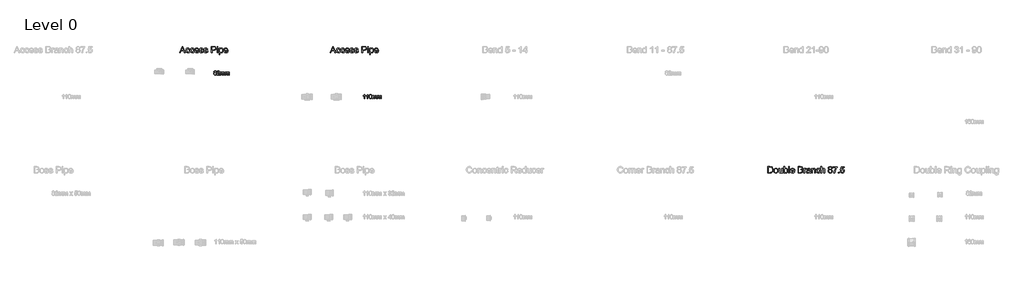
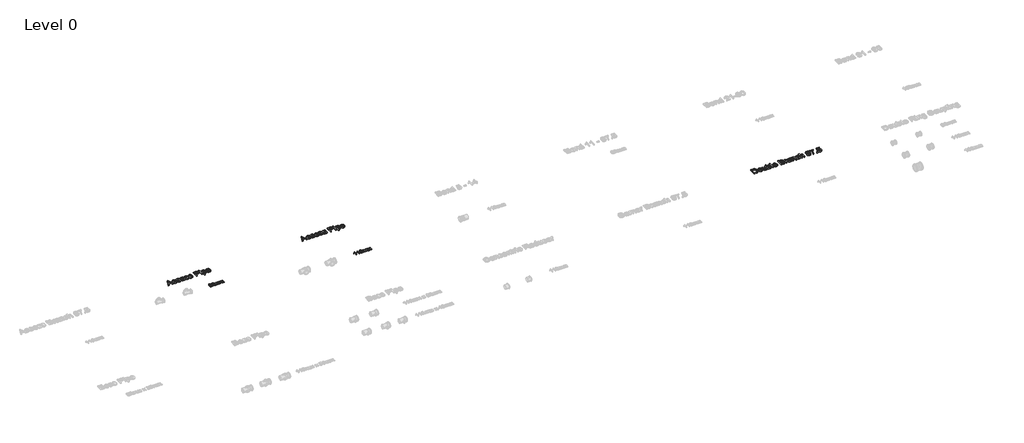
# One storey, part 19 of 23: 5 proxies.
"""IFC4 building model written with IfcOpenShell, lengths in millimetres."""

import ifcopenshell
import ifcopenshell.guid

model = None  # the IFC model being written
_history = None  # IfcOwnerHistory: only IFC2X3 demands one
_inside = {}  # id of a spatial element -> (the spatial element, [elements in it])
_under = {}  # id of a project, library or spatial element -> (it, [spatial elements below it])
_declared = {}  # id of a project -> (the project, [libraries it declares])
_typed = {}  # id of a type object -> (the type object, [elements of that type])
_made_of = {}  # id of a material, layer set ... -> (it, [elements and type objects made of it])


def new_model(schema):
    """Start an empty IFC model of exactly this schema.

    Asked for "IFC4X3", IfcOpenShell would pick the latest addendum, in which some entities
    have other attributes; the version numbers below select the first issue.
    IFC2X3 requires an IfcOwnerHistory on every rooted entity: one is made here for all.
    """
    global model, _history
    if schema == "IFC4X3":
        model = ifcopenshell.file(schema_version=(4, 3, 0, 0))
    else:
        model = ifcopenshell.file(schema=schema)
    _inside.clear()
    _under.clear()
    _declared.clear()
    _typed.clear()
    _made_of.clear()
    _history = None
    if model.schema == "IFC2X3":
        org = make("IfcOrganization", Name="unknown")
        user = make(
            "IfcPersonAndOrganization",
            ThePerson=make("IfcPerson", FamilyName="unknown"),
            TheOrganization=org,
        )
        app = make(
            "IfcApplication",
            ApplicationDeveloper=org,
            Version="unknown",
            ApplicationFullName="unknown",
            ApplicationIdentifier="unknown",
        )
        _history = make(
            "IfcOwnerHistory",
            OwningUser=user,
            OwningApplication=app,
            ChangeAction="ADDED",
            CreationDate=0,
        )
    return model


def make(cls, **values):
    """One entity of the class cls with the attributes given. An attribute that is None is left unset."""
    return model.create_entity(
        cls, **{name: value for name, value in values.items() if value is not None}
    )


def rooted(cls, **values):
    """An entity with a GlobalId (a new one), such as an element, a storey or a relation."""
    return make(cls, GlobalId=ifcopenshell.guid.new(), OwnerHistory=_history, **values)


def si_unit(unit_type, name, prefix=None):
    """IfcSIUnit, for example si_unit("LENGTHUNIT", "METRE", prefix="MILLI")."""
    return make("IfcSIUnit", UnitType=unit_type, Prefix=prefix, Name=name)


def assignment(units):
    """IfcUnitAssignment: the units of a project."""
    return None if units is None else make("IfcUnitAssignment", Units=units)


def point(xyz):
    """IfcCartesianPoint."""
    return None if xyz is None else make("IfcCartesianPoint", Coordinates=xyz)


def direction(xyz):
    """IfcDirection."""
    return None if xyz is None else make("IfcDirection", DirectionRatios=xyz)


def frame(location, z_axis=None, x_axis=None):
    """IfcAxis2Placement3D, a coordinate frame: its origin and axes. An axis left out is left unset."""
    return make(
        "IfcAxis2Placement3D",
        Location=point(location),
        Axis=direction(z_axis),
        RefDirection=direction(x_axis),
    )


def origin():
    """The frame at (0, 0, 0) with its axes left unset."""
    return frame((0.0, 0.0, 0.0))


def origin_with_axes():
    """The frame at (0, 0, 0) with the z axis (0, 0, 1) and the x axis (1, 0, 0) written out."""
    return frame((0.0, 0.0, 0.0), z_axis=(0.0, 0.0, 1.0), x_axis=(1.0, 0.0, 0.0))


def place(relative_to, where):
    """IfcLocalPlacement: puts the frame where relative to a parent placement (None: the world)."""
    return make(
        "IfcLocalPlacement", PlacementRelTo=relative_to, RelativePlacement=where
    )


def context(
    kind, dimensions, precision=None, world=None, true_north=None, identifier=None
):
    """IfcGeometricRepresentationContext, for example the 3D "Model" context."""
    return make(
        "IfcGeometricRepresentationContext",
        ContextIdentifier=identifier,
        ContextType=kind,
        CoordinateSpaceDimension=dimensions,
        Precision=precision,
        WorldCoordinateSystem=world,
        TrueNorth=true_north,
    )


def project(units=None, contexts=None):
    """IfcProject with its units and contexts."""
    return rooted(
        "IfcProject",
        Name="project",
        RepresentationContexts=contexts,
        UnitsInContext=assignment(units),
    )


def spatial(cls, under=None, at=None, **own):
    """A site, building, storey or space (cls), placed at a placement, below another one or the project."""
    s = rooted(cls, ObjectPlacement=at, **own)
    if under is not None:
        _under.setdefault(under.id(), (under, []))[1].append(s)
    return s


def polyline(points):
    """IfcPolyline through the points."""
    return make("IfcPolyline", Points=[point(p) for p in points])


def outline(outer, holes=None, kind="AREA"):
    """IfcArbitraryClosedProfileDef: a profile drawn as a closed curve; with holes, ...WithVoids."""
    if holes is None:
        return make("IfcArbitraryClosedProfileDef", ProfileType=kind, OuterCurve=outer)
    return make(
        "IfcArbitraryProfileDefWithVoids",
        ProfileType=kind,
        OuterCurve=outer,
        InnerCurves=holes,
    )


def extrude(swept, where, along, depth):
    """IfcExtrudedAreaSolid: the profile swept, set in the frame where, extruded along a direction by depth."""
    return make(
        "IfcExtrudedAreaSolid",
        SweptArea=swept,
        Position=where,
        ExtrudedDirection=direction(along),
        Depth=depth,
    )


def shape(context_of_items, identifier, shape_type, items):
    """IfcShapeRepresentation: the items that make up one representation, for example the "Body"."""
    return make(
        "IfcShapeRepresentation",
        ContextOfItems=context_of_items,
        RepresentationIdentifier=identifier,
        RepresentationType=shape_type,
        Items=items,
    )


def made_of(thing, what):
    """Note that an element or type object is made of a material, layer set ...; save() writes the relation."""
    if what is not None:
        _made_of.setdefault(what.id(), (what, []))[1].append(thing)
    return thing


def element(
    cls,
    number,
    at=None,
    inside=None,
    cuts=None,
    type_object=None,
    material=None,
    context=None,
    identifier="Body",
    shape_type=None,
    held_by="IfcProductDefinitionShape",
    body=None,
    shapes=None,
    **own,
):
    """One element of the class cls, such as IfcWall. Its Tag is "e" and its number.

    at: its placement. inside: the storey or other place that contains it. cuts: it is an
    opening in that element (IfcRelVoidsElement). A single representation is given by context,
    identifier, shape_type and body (its items); several are given by shapes. held_by: the class
    of the entity that holds the representations. save() writes the other relations.
    """
    e = rooted(cls, Tag="e%d" % number, ObjectPlacement=at, **own)
    if body is not None:
        shapes = [shape(context, identifier, shape_type, body)]
    if shapes is not None:
        e.Representation = make(held_by, Representations=shapes)
    if inside is not None:
        _inside.setdefault(inside.id(), (inside, []))[1].append(e)
    if cuts is not None:
        rooted(
            "IfcRelVoidsElement", RelatingBuildingElement=cuts, RelatedOpeningElement=e
        )
    if type_object is not None:
        _typed.setdefault(type_object.id(), (type_object, []))[1].append(e)
    return made_of(e, material)


def aggregate(whole, parts):
    """IfcRelAggregates: a whole, such as a stair, and the parts it consists of."""
    return rooted("IfcRelAggregates", RelatingObject=whole, RelatedObjects=parts)


def save(model, path):
    """Write the relations noted so far, then the file.

    IfcRelAggregates (storeys below a building ...), IfcRelContainedInSpatialStructure (elements
    in a storey), IfcRelDefinesByType, IfcRelAssociatesMaterial and IfcRelDeclares: one each for
    every whole, place, type object, material and project.
    """
    for whole, parts in _under.values():
        aggregate(whole, parts)
    for where, things in _inside.values():
        rooted(
            "IfcRelContainedInSpatialStructure",
            RelatedElements=things,
            RelatingStructure=where,
        )
    for kind, things in _typed.values():
        rooted("IfcRelDefinesByType", RelatedObjects=things, RelatingType=kind)
    for what, things in _made_of.values():
        rooted("IfcRelAssociatesMaterial", RelatedObjects=things, RelatingMaterial=what)
    for by, libraries in _declared.values():
        rooted("IfcRelDeclares", RelatingContext=by, RelatedDefinitions=libraries)
    model.write(path)


model = new_model("IFC4")

# Units and contexts
model_context = context("Model", 3, world=origin())
ifc_project = project(units=[si_unit("LENGTHUNIT", "METRE", prefix="MILLI")], contexts=[model_context])

# Site, building, storey
site = spatial("IfcSite", under=ifc_project)
building = spatial("IfcBuilding", under=site)
storey = spatial("IfcBuildingStorey", under=building, Name="Level 0", Elevation=0.0)

# Proxies
placement = place(None, origin())
element("IfcBuildingElementProxy", 1, Name="100mm Arial", ObjectType="100mm Arial", at=placement, inside=storey, context=model_context, shape_type="SweptSolid", body=[
    extrude(outline(polyline([(-13782.2581649, 8840.881174), (-13793.4721072, 8848.5254048), (-13797.1139341, 8860.4244433), (-13795.1307611, 8870.0458375), (-13789.1812418, 8877.9965587), (-13779.9324438, 8883.3330971), (-13768.0514341, 8885.1119433), (-13756.0983091, 8883.2910298), (-13746.7293188, 8877.8282894), (-13740.6716264, 8869.7513663), (-13738.6523957, 8860.0879048), (-13742.2461457, 8848.4893471), (-13753.147588, 8840.881174), (-13740.0586457, 8831.2297317), (-13735.5754726, 8815.304251), (-13737.7990303, 8803.537424), (-13744.4697034, 8793.8138663), (-13754.7701841, 8787.287424), (-13767.8831649, 8785.1119433), (-13780.9961457, 8787.2964385), (-13791.2966264, 8793.849924), (-13797.9672995, 8803.6666308), (-13800.1908572, 8815.6407894), (-13795.5273957, 8831.9388663), (-13782.2581649, 8840.881174)]), holes=[polyline([(-13784.8062418, 8860.0638663), (-13780.4432611, 8850.4004048), (-13767.7389341, 8846.6504048), (-13755.2870111, 8850.3763663), (-13750.960088, 8859.5109817), (-13755.4312418, 8868.9701163), (-13767.8831649, 8872.804251), (-13780.3711457, 8869.054251), (-13784.8062418, 8860.0638663)]), polyline([(-13787.8831649, 8816.0734817), (-13785.8278764, 8806.8066548), (-13778.5562418, 8799.8715587), (-13767.7870111, 8797.4196356), (-13753.1235495, 8802.5758856), (-13747.8831649, 8815.6888663), (-13753.2918188, 8829.054251), (-13759.7221072, 8833.0205971), (-13768.1956649, 8834.3427125), (-13782.678838, 8829.1263663), (-13787.8831649, 8816.0734817)])]), origin_with_axes(), (0.0, 0.0, 1.0), 15.0),
    extrude(outline(polyline([(-13661.7293188, 8798.9580971), (-13661.7293188, 8786.6504048), (-13726.3447034, 8786.6504048), (-13725.022588, 8795.1359817), (-13717.5466264, 8808.2008856), (-13702.1379726, 8822.4677125), (-13680.8879726, 8842.9725202), (-13675.5754726, 8856.9148279), (-13680.5874918, 8868.2008856), (-13693.6764341, 8872.804251), (-13707.3182611, 8868.3090587), (-13712.4985495, 8855.881174), (-13724.8062418, 8857.4196356), (-13721.8224678, 8869.3246837), (-13715.3711457, 8878.0205971), (-13705.7888139, 8883.3391067), (-13693.4120111, 8885.1119433), (-13680.9450639, 8883.1407894), (-13671.3807611, 8877.2273279), (-13665.2960255, 8868.3931933), (-13663.2677803, 8857.6600202), (-13665.4552803, 8845.9893471), (-13672.7269149, 8833.9220394), (-13690.3591264, 8817.0590587), (-13704.5177803, 8805.2201163), (-13710.0706649, 8798.9580971), (-13661.7293188, 8798.9580971)])), origin_with_axes(), (0.0, 0.0, 1.0), 15.0),
    extrude(outline(polyline([(-13646.3447034, 8786.6504048), (-13646.3447034, 8858.9580971), (-13634.0370111, 8858.9580971), (-13634.0370111, 8847.0590587), (-13625.5754726, 8856.8066548), (-13613.5322034, 8860.4965587), (-13601.2004726, 8856.7345394), (-13594.4216264, 8846.193674), (-13584.8182611, 8856.9208375), (-13572.6908572, 8860.4965587), (-13563.4390543, 8859.0091788), (-13556.5971072, 8854.5470394), (-13552.3693428, 8846.9899481), (-13550.960088, 8836.2177125), (-13550.960088, 8786.6504048), (-13563.2677803, 8786.6504048), (-13563.2677803, 8830.929251), (-13564.4096072, 8841.2056933), (-13568.5442226, 8846.2657894), (-13575.5754726, 8848.1888663), (-13587.678838, 8843.2609817), (-13592.4985495, 8827.4677125), (-13592.4985495, 8786.6504048), (-13604.8062418, 8786.6504048), (-13604.8062418, 8832.2994433), (-13607.6547995, 8844.2225202), (-13616.9937418, 8848.1888663), (-13626.1043188, 8845.5446356), (-13632.1620111, 8837.804251), (-13634.0370111, 8823.116751), (-13634.0370111, 8786.6504048), (-13646.3447034, 8786.6504048)])), origin_with_axes(), (0.0, 0.0, 1.0), 15.0),
    extrude(outline(polyline([(-13532.4985495, 8786.6504048), (-13532.4985495, 8858.9580971), (-13520.1908572, 8858.9580971), (-13520.1908572, 8847.0590587), (-13511.7293188, 8856.8066548), (-13499.6860495, 8860.4965587), (-13487.3543188, 8856.7345394), (-13480.5754726, 8846.193674), (-13470.9721072, 8856.9208375), (-13458.8447034, 8860.4965587), (-13449.5929005, 8859.0091788), (-13442.7509534, 8854.5470394), (-13438.5231889, 8846.9899481), (-13437.1139341, 8836.2177125), (-13437.1139341, 8786.6504048), (-13449.4216264, 8786.6504048), (-13449.4216264, 8830.929251), (-13450.5634534, 8841.2056933), (-13454.6980688, 8846.2657894), (-13461.7293188, 8848.1888663), (-13473.8326841, 8843.2609817), (-13478.6523957, 8827.4677125), (-13478.6523957, 8786.6504048), (-13490.960088, 8786.6504048), (-13490.960088, 8832.2994433), (-13493.8086457, 8844.2225202), (-13503.147588, 8848.1888663), (-13512.2581649, 8845.5446356), (-13518.3158572, 8837.804251), (-13520.1908572, 8823.116751), (-13520.1908572, 8786.6504048), (-13532.4985495, 8786.6504048)])), origin_with_axes(), (0.0, 0.0, 1.0), 15.0),
])
element("IfcBuildingElementProxy", 2, Name="100mm Arial", ObjectType="100mm Arial", at=placement, inside=storey, context=model_context, shape_type="SweptSolid", body=[
    extrude(outline(polyline([(-10291.7293188, 8237.7167304), (-10304.0370111, 8237.7167304), (-10304.0370111, 8314.4474996), (-10315.6956649, 8306.1422111), (-10328.6523957, 8299.9282688), (-10328.6523957, 8311.5628842), (-10310.6115303, 8323.0773073), (-10299.6620111, 8336.1782688), (-10291.7293188, 8336.1782688), (-10291.7293188, 8237.7167304)])), origin_with_axes(), (0.0, 0.0, 1.0), 15.0),
    extrude(outline(polyline([(-10216.3447034, 8237.7167304), (-10228.6523957, 8237.7167304), (-10228.6523957, 8314.4474996), (-10240.3110495, 8306.1422111), (-10253.2677803, 8299.9282688), (-10253.2677803, 8311.5628842), (-10235.2269149, 8323.0773073), (-10224.2773957, 8336.1782688), (-10216.3447034, 8336.1782688), (-10216.3447034, 8237.7167304)])), origin_with_axes(), (0.0, 0.0, 1.0), 15.0),
    extrude(outline(polyline([(-10187.1139341, 8286.1542304), (-10183.4961457, 8314.4835573), (-10172.7509534, 8330.8176919), (-10154.8062418, 8336.1782688), (-10140.4312418, 8333.0051919), (-10130.5033572, 8323.8585573), (-10124.7341264, 8309.2912496), (-10122.4985495, 8286.1542304), (-10126.0802803, 8257.9450958), (-10136.7894149, 8241.5749035), (-10154.8062418, 8236.1782688), (-10167.5947034, 8238.5220188), (-10177.3062418, 8245.5532688), (-10184.6620111, 8262.2059131), (-10187.1139341, 8286.1542304)]), holes=[polyline([(-10174.8062418, 8286.1782688), (-10173.3639341, 8266.8182929), (-10169.0370111, 8255.613365), (-10162.5947034, 8250.2678121), (-10154.8062418, 8248.4859611), (-10147.0177803, 8250.2738217), (-10140.5754726, 8255.6374035), (-10136.2485495, 8266.848341), (-10134.8062418, 8286.1782688), (-10136.2004726, 8305.1025477), (-10140.3831649, 8316.394615), (-10146.8134534, 8322.0015861), (-10154.9504726, 8323.8705765), (-10162.6547995, 8322.2239419), (-10168.8447034, 8317.2840381), (-10173.3158572, 8305.2888458), (-10174.8062418, 8286.1782688)])]), origin_with_axes(), (0.0, 0.0, 1.0), 15.0),
    extrude(outline(polyline([(-10108.6523957, 8237.7167304), (-10108.6523957, 8310.0244227), (-10096.3447034, 8310.0244227), (-10096.3447034, 8298.1253842), (-10087.8831649, 8307.8729804), (-10075.8398957, 8311.5628842), (-10063.5081649, 8307.800865), (-10056.7293188, 8297.2599996), (-10047.1259534, 8307.9871631), (-10034.9985495, 8311.5628842), (-10025.7467466, 8310.0755044), (-10018.9047995, 8305.613365), (-10014.6770351, 8298.0562736), (-10013.2677803, 8287.2840381), (-10013.2677803, 8237.7167304), (-10025.5754726, 8237.7167304), (-10025.5754726, 8281.9955765), (-10026.7172995, 8292.2720188), (-10030.8519149, 8297.332115), (-10037.8831649, 8299.2551919), (-10049.9865303, 8294.3273073), (-10054.8062418, 8278.5340381), (-10054.8062418, 8237.7167304), (-10067.1139341, 8237.7167304), (-10067.1139341, 8283.3657688), (-10069.9624918, 8295.2888458), (-10079.3014341, 8299.2551919), (-10088.4120111, 8296.6109611), (-10094.4697034, 8288.8705765), (-10096.3447034, 8274.1830765), (-10096.3447034, 8237.7167304), (-10108.6523957, 8237.7167304)])), origin_with_axes(), (0.0, 0.0, 1.0), 15.0),
    extrude(outline(polyline([(-9994.8062418, 8237.7167304), (-9994.8062418, 8310.0244227), (-9982.4985495, 8310.0244227), (-9982.4985495, 8298.1253842), (-9974.0370111, 8307.8729804), (-9961.9937418, 8311.5628842), (-9949.6620111, 8307.800865), (-9942.8831649, 8297.2599996), (-9933.2797995, 8307.9871631), (-9921.1523957, 8311.5628842), (-9911.9005928, 8310.0755044), (-9905.0586457, 8305.613365), (-9900.8308813, 8298.0562736), (-9899.4216264, 8287.2840381), (-9899.4216264, 8237.7167304), (-9911.7293188, 8237.7167304), (-9911.7293188, 8281.9955765), (-9912.8711457, 8292.2720188), (-9917.0057611, 8297.332115), (-9924.0370111, 8299.2551919), (-9936.1403764, 8294.3273073), (-9940.960088, 8278.5340381), (-9940.960088, 8237.7167304), (-9953.2677803, 8237.7167304), (-9953.2677803, 8283.3657688), (-9956.116338, 8295.2888458), (-9965.4552803, 8299.2551919), (-9974.5658572, 8296.6109611), (-9980.6235495, 8288.8705765), (-9982.4985495, 8274.1830765), (-9982.4985495, 8237.7167304), (-9994.8062418, 8237.7167304)])), origin_with_axes(), (0.0, 0.0, 1.0), 15.0),
])
element("IfcBuildingElementProxy", 3, Name="150mm Arial", ObjectType="150mm Arial", at=placement, inside=storey, context=model_context, shape_type="SweptSolid", body=[
    extrude(outline(polyline([(-14595.4967397, 9305.2145219), (-14536.5424127, 9452.9068296), (-14520.8212589, 9452.9068296), (-14461.866932, 9305.2145219), (-14481.3741435, 9305.2145219), (-14498.2852012, 9351.3683681), (-14559.1145281, 9351.3683681), (-14575.9895281, 9305.2145219), (-14595.4967397, 9305.2145219)]), holes=[polyline([(-14552.335682, 9369.8299065), (-14505.0279897, 9369.8299065), (-14518.3332781, 9406.1400027), (-14528.6818358, 9434.4452911), (-14537.8765473, 9409.3130796), (-14552.335682, 9369.8299065)])]), origin_with_axes(), (0.0, 0.0, 1.0), 25.0),
    extrude(outline(polyline([(-14375.2202973, 9344.4452911), (-14356.7587589, 9342.1375988), (-14361.9059945, 9325.7178272), (-14371.5784704, 9313.3094738), (-14384.86573, 9305.5074907), (-14400.8573166, 9302.9068296), (-14420.4952372, 9306.5351349), (-14435.851307, 9317.4200508), (-14445.7626651, 9335.0838128), (-14449.0664512, 9359.0486565), (-14443.4234223, 9389.7157238), (-14436.3020281, 9401.2136205), (-14426.2239031, 9409.4212527), (-14414.1671122, 9414.3431277), (-14401.1097204, 9415.9837527), (-14385.5102613, 9413.7301469), (-14373.038807, 9406.9693296), (-14364.0919921, 9396.0618777), (-14359.0664512, 9381.3683681), (-14377.5279897, 9379.0606758), (-14386.0916916, 9392.8888008), (-14400.9654897, 9397.5222142), (-14412.8960786, 9395.2415652), (-14422.36573, 9388.3996181), (-14428.5451171, 9376.6267815), (-14430.6049127, 9359.5534642), (-14428.5901892, 9342.2502791), (-14422.5460185, 9330.4368777), (-14413.2476411, 9323.6354955), (-14401.4702973, 9321.3683681), (-14391.9105017, 9322.7836325), (-14384.0724608, 9327.0294258), (-14378.3708382, 9334.213921), (-14375.2202973, 9344.4452911)])), origin_with_axes(), (0.0, 0.0, 1.0), 25.0),
    extrude(outline(polyline([(-14271.3741435, 9344.4452911), (-14252.912605, 9342.1375988), (-14258.0598406, 9325.7178272), (-14267.7323166, 9313.3094738), (-14281.0195762, 9305.5074907), (-14297.0111627, 9302.9068296), (-14316.6490834, 9306.5351349), (-14332.0051531, 9317.4200508), (-14341.9165113, 9335.0838128), (-14345.2202973, 9359.0486565), (-14339.5772685, 9389.7157238), (-14332.4558743, 9401.2136205), (-14322.3777493, 9409.4212527), (-14310.3209584, 9414.3431277), (-14297.2635666, 9415.9837527), (-14281.6641074, 9413.7301469), (-14269.1926531, 9406.9693296), (-14260.2458382, 9396.0618777), (-14255.2202973, 9381.3683681), (-14273.6818358, 9379.0606758), (-14282.2455377, 9392.8888008), (-14297.1193358, 9397.5222142), (-14309.0499247, 9395.2415652), (-14318.5195762, 9388.3996181), (-14324.6989632, 9376.6267815), (-14326.7587589, 9359.5534642), (-14324.7440353, 9342.2502791), (-14318.6998647, 9330.4368777), (-14309.4014872, 9323.6354955), (-14297.6241435, 9321.3683681), (-14288.0643478, 9322.7836325), (-14280.226307, 9327.0294258), (-14274.5246844, 9334.213921), (-14271.3741435, 9344.4452911)])), origin_with_axes(), (0.0, 0.0, 1.0), 25.0),
    extrude(outline(polyline([(-14160.8212589, 9337.5222142), (-14142.7202973, 9335.2145219), (-14149.2422324, 9321.5756998), (-14159.6493839, 9311.3803873), (-14173.7073767, 9305.025219), (-14191.1818358, 9302.9068296), (-14212.8434945, 9306.5621782), (-14229.5111627, 9317.5282238), (-14240.1391675, 9335.0928272), (-14243.6818358, 9358.5438488), (-14240.1031098, 9382.7836325), (-14229.366932, 9400.9116373), (-14212.9246243, 9412.2157238), (-14192.2275089, 9415.9837527), (-14172.1749247, 9412.2247383), (-14156.1517877, 9400.947695), (-14145.6454776, 9382.8557479), (-14142.1433743, 9358.6520219), (-14142.2515473, 9353.6760604), (-14225.2202973, 9353.6760604), (-14222.0246844, 9339.8569498), (-14214.601307, 9329.697695), (-14203.8876651, 9323.4506998), (-14190.8212589, 9321.3683681), (-14172.7202973, 9325.2265411), (-14160.8212589, 9337.5222142)]), holes=[polyline([(-14225.2202973, 9372.1375988), (-14160.6049127, 9372.1375988), (-14163.1019079, 9381.8912046), (-14167.9967397, 9388.8683681), (-14178.7599608, 9395.3587527), (-14192.2996243, 9397.5222142), (-14204.7440353, 9395.7959522), (-14215.0339993, 9390.6171661), (-14222.186944, 9382.5447503), (-14225.2202973, 9372.1375988)])]), origin_with_axes(), (0.0, 0.0, 1.0), 25.0),
    extrude(outline(polyline([(-14130.6049127, 9337.5222142), (-14112.1433743, 9339.8299065), (-14109.2317156, 9331.9332719), (-14103.5977012, 9326.1279835), (-14084.0183743, 9321.3683681), (-14065.1962589, 9325.7313488), (-14059.0664512, 9335.9717335), (-14065.2323166, 9344.2650027), (-14084.2347204, 9349.5294258), (-14112.0352012, 9358.5618777), (-14124.1686147, 9369.1087527), (-14128.2972204, 9384.0005796), (-14124.9799127, 9397.7565892), (-14115.929432, 9408.2674065), (-14104.1926531, 9413.7301469), (-14088.3092397, 9415.9837527), (-14065.8452973, 9412.3599546), (-14051.5664512, 9402.5522623), (-14045.2202973, 9385.9837527), (-14063.6818358, 9383.6760604), (-14070.6229416, 9393.8623585), (-14086.866932, 9397.5222142), (-14104.5352012, 9394.0246181), (-14109.835682, 9385.8755796), (-14107.6361627, 9380.5029835), (-14100.7491435, 9376.4284642), (-14084.8477012, 9372.4981758), (-14057.7503454, 9363.8082719), (-14045.1662108, 9353.9645219), (-14040.6049127, 9337.9188488), (-14045.95948, 9320.2505796), (-14061.4102012, 9307.43207), (-14084.2707781, 9302.9068296), (-14102.8855618, 9305.08832), (-14116.4702973, 9311.6327911), (-14125.538807, 9322.4681277), (-14130.6049127, 9337.5222142)])), origin_with_axes(), (0.0, 0.0, 1.0), 25.0),
    extrude(outline(polyline([(-14026.7587589, 9337.5222142), (-14008.2972204, 9339.8299065), (-14005.3855618, 9331.9332719), (-13999.7515473, 9326.1279835), (-13980.1722204, 9321.3683681), (-13961.350105, 9325.7313488), (-13955.2202973, 9335.9717335), (-13961.3861627, 9344.2650027), (-13980.3885666, 9349.5294258), (-14008.1890473, 9358.5618777), (-14020.3224608, 9369.1087527), (-14024.4510666, 9384.0005796), (-14021.1337589, 9397.7565892), (-14012.0832781, 9408.2674065), (-14000.3464993, 9413.7301469), (-13984.4630858, 9415.9837527), (-13961.9991435, 9412.3599546), (-13947.7202973, 9402.5522623), (-13941.3741435, 9385.9837527), (-13959.835682, 9383.6760604), (-13966.7767877, 9393.8623585), (-13983.0207781, 9397.5222142), (-14000.6890473, 9394.0246181), (-14005.9895281, 9385.8755796), (-14003.7900089, 9380.5029835), (-13996.9029897, 9376.4284642), (-13981.0015473, 9372.4981758), (-13953.9041916, 9363.8082719), (-13941.320057, 9353.9645219), (-13936.7587589, 9337.9188488), (-13942.1133262, 9320.2505796), (-13957.5640473, 9307.43207), (-13980.4246243, 9302.9068296), (-13999.0394079, 9305.08832), (-14012.6241435, 9311.6327911), (-14021.6926531, 9322.4681277), (-14026.7587589, 9337.5222142)])), origin_with_axes(), (0.0, 0.0, 1.0), 25.0),
    extrude(outline(polyline([(-13855.9895281, 9305.2145219), (-13855.9895281, 9452.9068296), (-13801.2539512, 9452.9068296), (-13779.1866435, 9451.5005796), (-13761.2479416, 9444.5955315), (-13749.6193358, 9430.3166854), (-13745.2202973, 9410.1784642), (-13748.1905497, 9392.7716133), (-13757.101307, 9378.2674065), (-13773.764468, 9368.4777431), (-13799.991932, 9365.2145219), (-13837.5279897, 9365.2145219), (-13837.5279897, 9305.2145219), (-13855.9895281, 9305.2145219)]), holes=[polyline([(-13837.5279897, 9383.6760604), (-13798.9102012, 9383.6760604), (-13782.5400089, 9385.3707719), (-13771.7227012, 9390.4549065), (-13765.6920522, 9398.6129594), (-13763.6818358, 9409.5294258), (-13768.4234223, 9424.8178873), (-13780.881355, 9433.1832719), (-13799.3428935, 9434.4452911), (-13837.5279897, 9434.4452911), (-13837.5279897, 9383.6760604)])]), origin_with_axes(), (0.0, 0.0, 1.0), 25.0),
    extrude(outline(polyline([(-13722.1433743, 9434.4452911), (-13722.1433743, 9452.9068296), (-13703.6818358, 9452.9068296), (-13703.6818358, 9434.4452911), (-13722.1433743, 9434.4452911)])), origin_with_axes(), (0.0, 0.0, 1.0), 25.0),
    extrude(outline(polyline([(-13722.1433743, 9305.2145219), (-13722.1433743, 9413.6760604), (-13703.6818358, 9413.6760604), (-13703.6818358, 9305.2145219), (-13722.1433743, 9305.2145219)])), origin_with_axes(), (0.0, 0.0, 1.0), 25.0),
    extrude(outline(polyline([(-13675.9895281, 9263.6760604), (-13675.9895281, 9413.6760604), (-13657.5279897, 9413.6760604), (-13657.5279897, 9395.5750988), (-13644.7635666, 9410.8815892), (-13627.5279897, 9415.9837527), (-13615.0430137, 9414.1988969), (-13604.1265473, 9408.8443296), (-13595.2383262, 9400.24457), (-13588.8380858, 9388.7241373), (-13583.6818358, 9360.2746181), (-13585.1376651, 9344.4858561), (-13589.5051531, 9330.3647623), (-13596.6445762, 9318.6279835), (-13606.4162108, 9309.9921661), (-13617.7969199, 9304.6781637), (-13629.7635666, 9302.9068296), (-13645.8272685, 9307.6484161), (-13657.5279897, 9319.6375988), (-13657.5279897, 9263.6760604), (-13675.9895281, 9263.6760604)]), holes=[polyline([(-13657.5279897, 9358.5799065), (-13655.5312949, 9342.0294258), (-13649.5412108, 9330.4549065), (-13640.702569, 9323.6400027), (-13630.1602012, 9321.3683681), (-13619.4465594, 9323.7211325), (-13610.382557, 9330.7794258), (-13604.2031699, 9342.7776229), (-13602.1433743, 9359.9500988), (-13604.1535906, 9376.4104354), (-13610.1842397, 9388.1472142), (-13619.0093598, 9395.1784642), (-13629.4029897, 9397.5222142), (-13639.8371844, 9395.0297262), (-13649.0003454, 9387.5522623), (-13655.3960786, 9375.3241974), (-13657.5279897, 9358.5799065)])]), origin_with_axes(), (0.0, 0.0, 1.0), 25.0),
    extrude(outline(polyline([(-13486.975105, 9337.5222142), (-13468.8741435, 9335.2145219), (-13475.3960786, 9321.5756998), (-13485.80323, 9311.3803873), (-13499.8612228, 9305.025219), (-13517.335682, 9302.9068296), (-13538.9973406, 9306.5621782), (-13555.6650089, 9317.5282238), (-13566.2930137, 9335.0928272), (-13569.835682, 9358.5438488), (-13566.256956, 9382.7836325), (-13555.5207781, 9400.9116373), (-13539.0784704, 9412.2157238), (-13518.381355, 9415.9837527), (-13498.3287709, 9412.2247383), (-13482.3056339, 9400.947695), (-13471.7993238, 9382.8557479), (-13468.2972204, 9358.6520219), (-13468.4053935, 9353.6760604), (-13551.3741435, 9353.6760604), (-13548.1785305, 9339.8569498), (-13540.7551531, 9329.697695), (-13530.0415113, 9323.4506998), (-13516.975105, 9321.3683681), (-13498.8741435, 9325.2265411), (-13486.975105, 9337.5222142)]), holes=[polyline([(-13551.3741435, 9372.1375988), (-13486.7587589, 9372.1375988), (-13489.2557541, 9381.8912046), (-13494.1505858, 9388.8683681), (-13504.913807, 9395.3587527), (-13518.4534704, 9397.5222142), (-13530.8978815, 9395.7959522), (-13541.1878454, 9390.6171661), (-13548.3407901, 9382.5447503), (-13551.3741435, 9372.1375988)])]), origin_with_axes(), (0.0, 0.0, 1.0), 25.0),
])
element("IfcBuildingElementProxy", 4, Name="150mm Arial", ObjectType="150mm Arial", at=placement, inside=storey, context=model_context, shape_type="SweptSolid", body=[
    extrude(outline(polyline([(-11095.4967397, 9305.2145219), (-11036.5424127, 9452.9068296), (-11020.8212589, 9452.9068296), (-10961.866932, 9305.2145219), (-10981.3741435, 9305.2145219), (-10998.2852012, 9351.3683681), (-11059.1145281, 9351.3683681), (-11075.9895281, 9305.2145219), (-11095.4967397, 9305.2145219)]), holes=[polyline([(-11052.335682, 9369.8299065), (-11005.0279897, 9369.8299065), (-11018.3332781, 9406.1400027), (-11028.6818358, 9434.4452911), (-11037.8765473, 9409.3130796), (-11052.335682, 9369.8299065)])]), origin_with_axes(), (0.0, 0.0, 1.0), 25.0),
    extrude(outline(polyline([(-10875.2202973, 9344.4452911), (-10856.7587589, 9342.1375988), (-10861.9059945, 9325.7178272), (-10871.5784704, 9313.3094738), (-10884.86573, 9305.5074907), (-10900.8573166, 9302.9068296), (-10920.4952372, 9306.5351349), (-10935.851307, 9317.4200508), (-10945.7626651, 9335.0838128), (-10949.0664512, 9359.0486565), (-10943.4234223, 9389.7157238), (-10936.3020281, 9401.2136205), (-10926.2239031, 9409.4212527), (-10914.1671122, 9414.3431277), (-10901.1097204, 9415.9837527), (-10885.5102613, 9413.7301469), (-10873.038807, 9406.9693296), (-10864.0919921, 9396.0618777), (-10859.0664512, 9381.3683681), (-10877.5279897, 9379.0606758), (-10886.0916916, 9392.8888008), (-10900.9654897, 9397.5222142), (-10912.8960786, 9395.2415652), (-10922.36573, 9388.3996181), (-10928.5451171, 9376.6267815), (-10930.6049127, 9359.5534642), (-10928.5901892, 9342.2502791), (-10922.5460185, 9330.4368777), (-10913.2476411, 9323.6354955), (-10901.4702973, 9321.3683681), (-10891.9105017, 9322.7836325), (-10884.0724608, 9327.0294258), (-10878.3708382, 9334.213921), (-10875.2202973, 9344.4452911)])), origin_with_axes(), (0.0, 0.0, 1.0), 25.0),
    extrude(outline(polyline([(-10771.3741435, 9344.4452911), (-10752.912605, 9342.1375988), (-10758.0598406, 9325.7178272), (-10767.7323166, 9313.3094738), (-10781.0195762, 9305.5074907), (-10797.0111627, 9302.9068296), (-10816.6490834, 9306.5351349), (-10832.0051531, 9317.4200508), (-10841.9165113, 9335.0838128), (-10845.2202973, 9359.0486565), (-10839.5772685, 9389.7157238), (-10832.4558743, 9401.2136205), (-10822.3777493, 9409.4212527), (-10810.3209584, 9414.3431277), (-10797.2635666, 9415.9837527), (-10781.6641074, 9413.7301469), (-10769.1926531, 9406.9693296), (-10760.2458382, 9396.0618777), (-10755.2202973, 9381.3683681), (-10773.6818358, 9379.0606758), (-10782.2455377, 9392.8888008), (-10797.1193358, 9397.5222142), (-10809.0499247, 9395.2415652), (-10818.5195762, 9388.3996181), (-10824.6989632, 9376.6267815), (-10826.7587589, 9359.5534642), (-10824.7440353, 9342.2502791), (-10818.6998647, 9330.4368777), (-10809.4014872, 9323.6354955), (-10797.6241435, 9321.3683681), (-10788.0643478, 9322.7836325), (-10780.226307, 9327.0294258), (-10774.5246844, 9334.213921), (-10771.3741435, 9344.4452911)])), origin_with_axes(), (0.0, 0.0, 1.0), 25.0),
    extrude(outline(polyline([(-10660.8212589, 9337.5222142), (-10642.7202973, 9335.2145219), (-10649.2422324, 9321.5756998), (-10659.6493839, 9311.3803873), (-10673.7073767, 9305.025219), (-10691.1818358, 9302.9068296), (-10712.8434945, 9306.5621782), (-10729.5111627, 9317.5282238), (-10740.1391675, 9335.0928272), (-10743.6818358, 9358.5438488), (-10740.1031098, 9382.7836325), (-10729.366932, 9400.9116373), (-10712.9246243, 9412.2157238), (-10692.2275089, 9415.9837527), (-10672.1749247, 9412.2247383), (-10656.1517877, 9400.947695), (-10645.6454776, 9382.8557479), (-10642.1433743, 9358.6520219), (-10642.2515473, 9353.6760604), (-10725.2202973, 9353.6760604), (-10722.0246844, 9339.8569498), (-10714.601307, 9329.697695), (-10703.8876651, 9323.4506998), (-10690.8212589, 9321.3683681), (-10672.7202973, 9325.2265411), (-10660.8212589, 9337.5222142)]), holes=[polyline([(-10725.2202973, 9372.1375988), (-10660.6049127, 9372.1375988), (-10663.1019079, 9381.8912046), (-10667.9967397, 9388.8683681), (-10678.7599608, 9395.3587527), (-10692.2996243, 9397.5222142), (-10704.7440353, 9395.7959522), (-10715.0339993, 9390.6171661), (-10722.186944, 9382.5447503), (-10725.2202973, 9372.1375988)])]), origin_with_axes(), (0.0, 0.0, 1.0), 25.0),
    extrude(outline(polyline([(-10630.6049127, 9337.5222142), (-10612.1433743, 9339.8299065), (-10609.2317156, 9331.9332719), (-10603.5977012, 9326.1279835), (-10584.0183743, 9321.3683681), (-10565.1962589, 9325.7313488), (-10559.0664512, 9335.9717335), (-10565.2323166, 9344.2650027), (-10584.2347204, 9349.5294258), (-10612.0352012, 9358.5618777), (-10624.1686147, 9369.1087527), (-10628.2972204, 9384.0005796), (-10624.9799127, 9397.7565892), (-10615.929432, 9408.2674065), (-10604.1926531, 9413.7301469), (-10588.3092397, 9415.9837527), (-10565.8452973, 9412.3599546), (-10551.5664512, 9402.5522623), (-10545.2202973, 9385.9837527), (-10563.6818358, 9383.6760604), (-10570.6229416, 9393.8623585), (-10586.866932, 9397.5222142), (-10604.5352012, 9394.0246181), (-10609.835682, 9385.8755796), (-10607.6361627, 9380.5029835), (-10600.7491435, 9376.4284642), (-10584.8477012, 9372.4981758), (-10557.7503454, 9363.8082719), (-10545.1662108, 9353.9645219), (-10540.6049127, 9337.9188488), (-10545.95948, 9320.2505796), (-10561.4102012, 9307.43207), (-10584.2707781, 9302.9068296), (-10602.8855618, 9305.08832), (-10616.4702973, 9311.6327911), (-10625.538807, 9322.4681277), (-10630.6049127, 9337.5222142)])), origin_with_axes(), (0.0, 0.0, 1.0), 25.0),
    extrude(outline(polyline([(-10526.7587589, 9337.5222142), (-10508.2972204, 9339.8299065), (-10505.3855618, 9331.9332719), (-10499.7515473, 9326.1279835), (-10480.1722204, 9321.3683681), (-10461.350105, 9325.7313488), (-10455.2202973, 9335.9717335), (-10461.3861627, 9344.2650027), (-10480.3885666, 9349.5294258), (-10508.1890473, 9358.5618777), (-10520.3224608, 9369.1087527), (-10524.4510666, 9384.0005796), (-10521.1337589, 9397.7565892), (-10512.0832781, 9408.2674065), (-10500.3464993, 9413.7301469), (-10484.4630858, 9415.9837527), (-10461.9991435, 9412.3599546), (-10447.7202973, 9402.5522623), (-10441.3741435, 9385.9837527), (-10459.835682, 9383.6760604), (-10466.7767877, 9393.8623585), (-10483.0207781, 9397.5222142), (-10500.6890473, 9394.0246181), (-10505.9895281, 9385.8755796), (-10503.7900089, 9380.5029835), (-10496.9029897, 9376.4284642), (-10481.0015473, 9372.4981758), (-10453.9041916, 9363.8082719), (-10441.320057, 9353.9645219), (-10436.7587589, 9337.9188488), (-10442.1133262, 9320.2505796), (-10457.5640473, 9307.43207), (-10480.4246243, 9302.9068296), (-10499.0394079, 9305.08832), (-10512.6241435, 9311.6327911), (-10521.6926531, 9322.4681277), (-10526.7587589, 9337.5222142)])), origin_with_axes(), (0.0, 0.0, 1.0), 25.0),
    extrude(outline(polyline([(-10355.9895281, 9305.2145219), (-10355.9895281, 9452.9068296), (-10301.2539512, 9452.9068296), (-10279.1866435, 9451.5005796), (-10261.2479416, 9444.5955315), (-10249.6193358, 9430.3166854), (-10245.2202973, 9410.1784642), (-10248.1905497, 9392.7716133), (-10257.101307, 9378.2674065), (-10273.764468, 9368.4777431), (-10299.991932, 9365.2145219), (-10337.5279897, 9365.2145219), (-10337.5279897, 9305.2145219), (-10355.9895281, 9305.2145219)]), holes=[polyline([(-10337.5279897, 9383.6760604), (-10298.9102012, 9383.6760604), (-10282.5400089, 9385.3707719), (-10271.7227012, 9390.4549065), (-10265.6920522, 9398.6129594), (-10263.6818358, 9409.5294258), (-10268.4234223, 9424.8178873), (-10280.881355, 9433.1832719), (-10299.3428935, 9434.4452911), (-10337.5279897, 9434.4452911), (-10337.5279897, 9383.6760604)])]), origin_with_axes(), (0.0, 0.0, 1.0), 25.0),
    extrude(outline(polyline([(-10222.1433743, 9434.4452911), (-10222.1433743, 9452.9068296), (-10203.6818358, 9452.9068296), (-10203.6818358, 9434.4452911), (-10222.1433743, 9434.4452911)])), origin_with_axes(), (0.0, 0.0, 1.0), 25.0),
    extrude(outline(polyline([(-10222.1433743, 9305.2145219), (-10222.1433743, 9413.6760604), (-10203.6818358, 9413.6760604), (-10203.6818358, 9305.2145219), (-10222.1433743, 9305.2145219)])), origin_with_axes(), (0.0, 0.0, 1.0), 25.0),
    extrude(outline(polyline([(-10175.9895281, 9263.6760604), (-10175.9895281, 9413.6760604), (-10157.5279897, 9413.6760604), (-10157.5279897, 9395.5750988), (-10144.7635666, 9410.8815892), (-10127.5279897, 9415.9837527), (-10115.0430137, 9414.1988969), (-10104.1265473, 9408.8443296), (-10095.2383262, 9400.24457), (-10088.8380858, 9388.7241373), (-10083.6818358, 9360.2746181), (-10085.1376651, 9344.4858561), (-10089.5051531, 9330.3647623), (-10096.6445762, 9318.6279835), (-10106.4162108, 9309.9921661), (-10117.7969199, 9304.6781637), (-10129.7635666, 9302.9068296), (-10145.8272685, 9307.6484161), (-10157.5279897, 9319.6375988), (-10157.5279897, 9263.6760604), (-10175.9895281, 9263.6760604)]), holes=[polyline([(-10157.5279897, 9358.5799065), (-10155.5312949, 9342.0294258), (-10149.5412108, 9330.4549065), (-10140.702569, 9323.6400027), (-10130.1602012, 9321.3683681), (-10119.4465594, 9323.7211325), (-10110.382557, 9330.7794258), (-10104.2031699, 9342.7776229), (-10102.1433743, 9359.9500988), (-10104.1535906, 9376.4104354), (-10110.1842397, 9388.1472142), (-10119.0093598, 9395.1784642), (-10129.4029897, 9397.5222142), (-10139.8371844, 9395.0297262), (-10149.0003454, 9387.5522623), (-10155.3960786, 9375.3241974), (-10157.5279897, 9358.5799065)])]), origin_with_axes(), (0.0, 0.0, 1.0), 25.0),
    extrude(outline(polyline([(-9986.975105, 9337.5222142), (-9968.8741435, 9335.2145219), (-9975.3960786, 9321.5756998), (-9985.80323, 9311.3803873), (-9999.8612228, 9305.025219), (-10017.335682, 9302.9068296), (-10038.9973406, 9306.5621782), (-10055.6650089, 9317.5282238), (-10066.2930137, 9335.0928272), (-10069.835682, 9358.5438488), (-10066.256956, 9382.7836325), (-10055.5207781, 9400.9116373), (-10039.0784704, 9412.2157238), (-10018.381355, 9415.9837527), (-9998.3287709, 9412.2247383), (-9982.3056339, 9400.947695), (-9971.7993238, 9382.8557479), (-9968.2972204, 9358.6520219), (-9968.4053935, 9353.6760604), (-10051.3741435, 9353.6760604), (-10048.1785305, 9339.8569498), (-10040.7551531, 9329.697695), (-10030.0415113, 9323.4506998), (-10016.975105, 9321.3683681), (-9998.8741435, 9325.2265411), (-9986.975105, 9337.5222142)]), holes=[polyline([(-10051.3741435, 9372.1375988), (-9986.7587589, 9372.1375988), (-9989.2557541, 9381.8912046), (-9994.1505858, 9388.8683681), (-10004.913807, 9395.3587527), (-10018.4534704, 9397.5222142), (-10030.8978815, 9395.7959522), (-10041.1878454, 9390.6171661), (-10048.3407901, 9382.5447503), (-10051.3741435, 9372.1375988)])]), origin_with_axes(), (0.0, 0.0, 1.0), 25.0),
])
element("IfcBuildingElementProxy", 5, Name="150mm Arial", ObjectType="150mm Arial", at=placement, inside=storey, context=model_context, shape_type="SweptSolid", body=[
    extrude(outline(polyline([(-916.3741435, 6505.2145219), (-916.3741435, 6652.9068296), (-865.4246243, 6652.9068296), (-839.0664512, 6650.7794258), (-817.3597204, 6640.2145219), (-807.1463791, 6628.9645219), (-799.8717397, 6614.9741373), (-795.5177733, 6598.5138008), (-794.0664512, 6579.853945), (-797.9967397, 6550.0522623), (-808.0928935, 6528.5438488), (-821.5784704, 6515.1484161), (-839.2287108, 6507.7385604), (-862.9727012, 6505.2145219), (-916.3741435, 6505.2145219)]), holes=[polyline([(-897.912605, 6523.6760604), (-865.2443358, 6523.6760604), (-841.4823166, 6526.3443296), (-827.7803935, 6533.8803873), (-816.5484223, 6552.2157238), (-812.5279897, 6580.1424065), (-814.4976411, 6600.2625988), (-820.4065954, 6615.1183681), (-829.1370642, 6625.322695), (-839.5712589, 6631.4885604), (-865.7491435, 6634.4452911), (-897.912605, 6634.4452911), (-897.912605, 6523.6760604)])]), origin_with_axes(), (0.0, 0.0, 1.0), 25.0),
    extrude(outline(polyline([(-775.6049127, 6559.4452911), (-771.6115233, 6585.5961325), (-759.631355, 6603.9765411), (-744.8296723, 6612.9819498), (-727.1073166, 6615.9837527), (-707.7127853, 6612.3284041), (-692.2214993, 6601.3623585), (-682.0667517, 6583.9510003), (-678.6818358, 6560.9597142), (-680.17823, 6542.3088729), (-684.6674127, 6528.1111565), (-692.0186747, 6517.4786445), (-702.101307, 6509.5234161), (-714.076968, 6504.5609762), (-727.1073166, 6502.9068296), (-746.7362228, 6506.5486565), (-762.20948, 6517.4741373), (-772.2560546, 6535.2505796), (-775.6049127, 6559.4452911)]), holes=[polyline([(-757.1433743, 6559.4813488), (-755.006956, 6542.7731157), (-748.5977012, 6530.86957), (-738.9522685, 6523.7436686), (-727.1073166, 6521.3683681), (-715.3164512, 6523.7571902), (-705.6890473, 6530.9236565), (-699.2797925, 6542.9849546), (-697.1433743, 6560.0582719), (-699.2933142, 6576.2797262), (-705.7431339, 6588.0210123), (-715.3840594, 6595.1469137), (-727.1073166, 6597.5222142), (-738.9522685, 6595.1559282), (-748.5977012, 6588.05707), (-755.006956, 6576.1805676), (-757.1433743, 6559.4813488)])]), origin_with_axes(), (0.0, 0.0, 1.0), 25.0),
    extrude(outline(polyline([(-588.6818358, 6505.2145219), (-588.6818358, 6523.8563488), (-603.1409704, 6508.1442094), (-621.9991435, 6502.9068296), (-639.3609223, 6506.5847142), (-651.3320762, 6515.8154835), (-656.8308743, 6529.4092335), (-657.912605, 6546.572695), (-657.912605, 6613.6760604), (-639.4510666, 6613.6760604), (-639.4510666, 6555.2625988), (-638.3332781, 6536.4404835), (-631.0315954, 6525.3888008), (-617.2755858, 6521.3683681), (-601.8609223, 6525.478945), (-591.6746243, 6536.6748585), (-588.6818358, 6557.2457719), (-588.6818358, 6613.6760604), (-570.2202973, 6613.6760604), (-570.2202973, 6505.2145219), (-588.6818358, 6505.2145219)])), origin_with_axes(), (0.0, 0.0, 1.0), 25.0),
    extrude(outline(polyline([(-526.3741435, 6505.2145219), (-544.835682, 6505.2145219), (-544.835682, 6652.9068296), (-526.3741435, 6652.9068296), (-526.3741435, 6598.135195), (-513.4474608, 6611.5216133), (-497.3837589, 6615.9837527), (-478.8861627, 6611.96332), (-464.5352012, 6600.6592335), (-455.7190954, 6583.0811085), (-452.5279897, 6561.0678873), (-455.8317757, 6536.4224546), (-465.7431339, 6518.0871181), (-480.2879055, 6506.7019017), (-497.491932, 6502.9068296), (-513.9071964, 6507.8016613), (-526.3741435, 6522.4861565), (-526.3741435, 6505.2145219)]), holes=[polyline([(-526.3741435, 6560.2025027), (-525.1121243, 6544.8058681), (-521.3260666, 6534.385195), (-511.6535906, 6524.6225748), (-499.0784704, 6521.3683681), (-488.4234223, 6523.7662046), (-479.318855, 6530.9597142), (-473.0718598, 6542.9038248), (-470.9895281, 6559.5534642), (-472.9862228, 6576.4464931), (-478.976307, 6588.2553873), (-487.7969199, 6595.2055075), (-498.2852012, 6597.5222142), (-508.9402493, 6595.1243777), (-518.0448166, 6587.9308681), (-524.2918118, 6576.2031036), (-526.3741435, 6560.2025027)])]), origin_with_axes(), (0.0, 0.0, 1.0), 25.0),
    extrude(outline(polyline([(-431.7587589, 6505.2145219), (-431.7587589, 6652.9068296), (-413.2972204, 6652.9068296), (-413.2972204, 6505.2145219), (-431.7587589, 6505.2145219)])), origin_with_axes(), (0.0, 0.0, 1.0), 25.0),
    extrude(outline(polyline([(-309.6674127, 6537.5222142), (-291.5664512, 6535.2145219), (-298.0883863, 6521.5756998), (-308.4955377, 6511.3803873), (-322.5535305, 6505.025219), (-340.0279897, 6502.9068296), (-361.6896483, 6506.5621782), (-378.3573166, 6517.5282238), (-388.9853214, 6535.0928272), (-392.5279897, 6558.5438488), (-388.9492637, 6582.7836325), (-378.2130858, 6600.9116373), (-361.7707781, 6612.2157238), (-341.0736627, 6615.9837527), (-321.0210786, 6612.2247383), (-304.9979416, 6600.947695), (-294.4916315, 6582.8557479), (-290.9895281, 6558.6520219), (-291.0977012, 6553.6760604), (-374.0664512, 6553.6760604), (-370.8708382, 6539.8569498), (-363.4474608, 6529.697695), (-352.733819, 6523.4506998), (-339.6674127, 6521.3683681), (-321.5664512, 6525.2265411), (-309.6674127, 6537.5222142)]), holes=[polyline([(-374.0664512, 6572.1375988), (-309.4510666, 6572.1375988), (-311.9480618, 6581.8912046), (-316.8428935, 6588.8683681), (-327.6061147, 6595.3587527), (-341.1457781, 6597.5222142), (-353.5901892, 6595.7959522), (-363.8801531, 6590.6171661), (-371.0330978, 6582.5447503), (-374.0664512, 6572.1375988)])]), origin_with_axes(), (0.0, 0.0, 1.0), 25.0),
    extrude(outline(polyline([(-212.5279897, 6505.2145219), (-212.5279897, 6652.9068296), (-156.1698166, 6652.9068296), (-128.5676531, 6648.5618777), (-119.2918118, 6643.049558), (-112.2695762, 6635.2025027), (-106.3741435, 6616.3082719), (-111.3320762, 6599.0546661), (-126.3140473, 6585.9837527), (-115.8528094, 6580.5210123), (-108.1229416, 6572.2097142), (-103.3498046, 6561.5997383), (-101.7587589, 6549.2409642), (-106.1037108, 6529.3912046), (-116.866932, 6515.2565892), (-132.9306339, 6507.7565892), (-156.6025089, 6505.2145219), (-212.5279897, 6505.2145219)]), holes=[polyline([(-194.0664512, 6523.6760604), (-156.2058743, 6523.6760604), (-142.5039512, 6524.3972142), (-130.9114031, 6528.4176469), (-123.2311147, 6536.6207719), (-120.2202973, 6549.0606758), (-123.7539512, 6563.4116373), (-135.2022685, 6571.9753392), (-158.0087589, 6574.4452911), (-194.0664512, 6574.4452911), (-194.0664512, 6523.6760604)]), polyline([(-194.0664512, 6592.9068296), (-160.3525089, 6592.9068296), (-140.6650089, 6594.4933681), (-128.820057, 6601.3263008), (-124.835682, 6613.3515411), (-128.5496243, 6625.3948104), (-139.1866435, 6632.5162046), (-162.912605, 6634.4452911), (-194.0664512, 6634.4452911), (-194.0664512, 6592.9068296)])]), origin_with_axes(), (0.0, 0.0, 1.0), 25.0),
    extrude(outline(polyline([(-78.6818358, 6505.2145219), (-78.6818358, 6613.6760604), (-62.5279897, 6613.6760604), (-62.5279897, 6597.6303873), (-51.0616435, 6612.4140411), (-39.523182, 6615.9837527), (-20.9895281, 6610.2866373), (-27.1553935, 6593.7361565), (-40.1361627, 6597.5222142), (-50.5748647, 6593.8803873), (-57.2275089, 6583.7842335), (-60.2202973, 6562.2217335), (-60.2202973, 6505.2145219), (-78.6818358, 6505.2145219)])), origin_with_axes(), (0.0, 0.0, 1.0), 25.0),
    extrude(outline(polyline([(59.7797027, 6519.0606758), (41.8770584, 6506.5486565), (22.0994142, 6502.9068296), (6.6712291, 6505.0973344), (-4.70948, 6511.6688488), (-11.7272084, 6521.6478152), (-14.0664512, 6534.0606758), (-10.5327973, 6548.6640411), (-1.2479416, 6559.2650027), (11.6787411, 6565.322695), (27.6522988, 6568.0991373), (59.6715296, 6574.4452911), (59.7797027, 6578.5558681), (58.508669, 6586.7950508), (54.695568, 6592.1856758), (46.1679238, 6596.1880796), (34.2869142, 6597.5222142), (15.6090296, 6593.9705315), (6.7027796, 6581.3683681), (-11.7587589, 6583.6760604), (-3.77198, 6601.7049065), (12.3097507, 6612.2698104), (36.6667219, 6615.9837527), (59.04052, 6612.7025027), (71.6787411, 6604.46332), (77.3397988, 6591.9332719), (78.2412411, 6575.7794258), (78.2412411, 6552.8106758), (79.1787411, 6520.7373585), (82.8566257, 6505.2145219), (64.3950873, 6505.2145219), (59.7797027, 6519.0606758)]), holes=[polyline([(59.7797027, 6555.9837527), (29.9960488, 6550.322695), (14.1126353, 6547.3299065), (6.9191257, 6542.4621181), (4.3950873, 6535.3587527), (9.8938853, 6525.3707719), (26.0297027, 6521.3683681), (44.7075873, 6525.7854354), (56.7508565, 6536.4765411), (59.6715296, 6550.7553873), (59.7797027, 6555.9837527)])]), origin_with_axes(), (0.0, 0.0, 1.0), 25.0),
    extrude(outline(polyline([(103.6258565, 6505.2145219), (103.6258565, 6613.6760604), (122.087395, 6613.6760604), (122.087395, 6598.5318296), (136.2039815, 6611.6207719), (155.476818, 6615.9837527), (172.9107123, 6612.4681277), (184.8097507, 6603.2373585), (190.3446065, 6589.6616373), (191.3181642, 6571.8130796), (191.3181642, 6505.2145219), (172.8566257, 6505.2145219), (172.8566257, 6569.3250988), (170.7292219, 6585.6592335), (163.211193, 6594.2950508), (150.5369142, 6597.5222142), (139.7241137, 6595.7103152), (130.5068661, 6590.2746181), (124.1922628, 6579.7728152), (122.087395, 6562.7625988), (122.087395, 6505.2145219), (103.6258565, 6505.2145219)])), origin_with_axes(), (0.0, 0.0, 1.0), 25.0),
    extrude(outline(polyline([(285.9335488, 6544.4452911), (304.3950873, 6542.1375988), (299.2478517, 6525.7178272), (289.5753757, 6513.3094738), (276.2881161, 6505.5074907), (260.2965296, 6502.9068296), (240.6586089, 6506.5351349), (225.3025392, 6517.4200508), (215.391181, 6535.0838128), (212.087395, 6559.0486565), (217.7304238, 6589.7157238), (224.851818, 6601.2136205), (234.929943, 6609.4212527), (246.9867339, 6614.3431277), (260.0441257, 6615.9837527), (275.6435849, 6613.7301469), (288.1150392, 6606.9693296), (297.0618541, 6596.0618777), (302.087395, 6581.3683681), (283.6258565, 6579.0606758), (275.0621546, 6592.8888008), (260.1883565, 6597.5222142), (248.2577676, 6595.2415652), (238.7881161, 6588.3996181), (232.6087291, 6576.6267815), (230.5489334, 6559.5534642), (232.563657, 6542.2502791), (238.6078277, 6530.4368777), (247.9062051, 6523.6354955), (259.6835488, 6521.3683681), (269.2433445, 6522.7836325), (277.0813853, 6527.0294258), (282.7830079, 6534.213921), (285.9335488, 6544.4452911)])), origin_with_axes(), (0.0, 0.0, 1.0), 25.0),
    extrude(outline(polyline([(320.5489334, 6505.2145219), (320.5489334, 6652.9068296), (339.0104719, 6652.9068296), (339.0104719, 6598.603945), (353.4065055, 6611.6388008), (371.1378757, 6615.9837527), (391.8710488, 6611.2421661), (404.4551834, 6598.135195), (408.2412411, 6573.8683681), (408.2412411, 6505.2145219), (389.7797027, 6505.2145219), (389.7797027, 6571.9573104), (388.3103517, 6583.5138008), (383.9022988, 6591.4284642), (376.7989334, 6595.9987767), (367.243645, 6597.5222142), (352.117443, 6593.4116373), (342.0212892, 6582.2698104), (339.0104719, 6562.8347142), (339.0104719, 6505.2145219), (320.5489334, 6505.2145219)])), origin_with_axes(), (0.0, 0.0, 1.0), 25.0),
    extrude(outline(polyline([(513.601818, 6586.5606758), (496.7809046, 6598.0270219), (491.3181642, 6615.8755796), (494.2929238, 6630.307671), (503.2172027, 6642.2337527), (517.0903998, 6650.2385604), (534.9119142, 6652.9068296), (552.8416017, 6650.1754594), (566.8950873, 6641.9813488), (575.9816257, 6629.8659642), (579.0104719, 6615.3707719), (573.6198469, 6597.9729354), (557.2676834, 6586.5606758), (568.6303637, 6580.705808), (576.9010969, 6572.0835123), (581.9446666, 6561.1084522), (583.6258565, 6548.1952911), (580.29052, 6530.5450508), (570.2845103, 6515.9597142), (554.8337892, 6506.1700508), (535.164318, 6502.9068296), (515.4948469, 6506.1835724), (500.0441257, 6516.0138008), (490.0381161, 6530.7388609), (486.7027796, 6548.7000988), (488.4515777, 6562.1135604), (493.6979719, 6573.1472142), (502.1715296, 6581.4224546), (513.601818, 6586.5606758)]), holes=[polyline([(505.164318, 6549.3491373), (508.2472507, 6535.4488969), (519.1547027, 6525.0462527), (535.3085488, 6521.3683681), (547.8746546, 6523.3019618), (557.3037411, 6529.1027431), (563.1991738, 6537.8872984), (565.164318, 6548.7722142), (563.1360728, 6559.8419258), (557.0513373, 6568.8202911), (547.4059046, 6574.7698104), (534.695568, 6576.7529835), (522.3052435, 6574.7968536), (512.9708084, 6568.9284642), (507.1159406, 6560.1213729), (505.164318, 6549.3491373)]), polyline([(509.7797027, 6615.3347142), (511.4158204, 6607.27582), (516.3241738, 6600.8395219), (524.360532, 6596.6207719), (535.3806642, 6595.2145219), (546.1438853, 6596.6117575), (554.0585488, 6600.8034642), (558.9263373, 6607.0234161), (560.5489334, 6614.5053873), (558.8722507, 6622.2713128), (553.8422027, 6628.6940892), (545.8193661, 6633.0074907), (535.164318, 6634.4452911), (524.4416618, 6633.0390411), (516.4323469, 6628.8202911), (511.4428637, 6622.6363969), (509.7797027, 6615.3347142)])]), origin_with_axes(), (0.0, 0.0, 1.0), 25.0),
    extrude(outline(polyline([(599.7797027, 6632.1375988), (599.7797027, 6650.5991373), (696.7027796, 6650.5991373), (696.7027796, 6635.6712527), (669.2087892, 6595.9537046), (648.1691257, 6545.3467335), (641.3181642, 6505.2145219), (622.8566257, 6505.2145219), (630.1943661, 6546.8611565), (650.3325873, 6593.9344738), (678.2412411, 6632.1375988), (599.7797027, 6632.1375988)])), origin_with_axes(), (0.0, 0.0, 1.0), 25.0),
    extrude(outline(polyline([(722.087395, 6505.2145219), (722.087395, 6523.6760604), (740.5489334, 6523.6760604), (740.5489334, 6505.2145219), (722.087395, 6505.2145219)])), origin_with_axes(), (0.0, 0.0, 1.0), 25.0),
    extrude(outline(polyline([(770.5489334, 6544.4452911), (789.0104719, 6546.7529835), (792.399895, 6535.6697503), (798.3133565, 6527.7325508), (806.7238132, 6522.9594137), (817.6042219, 6521.3683681), (830.837395, 6523.5814089), (840.7532603, 6530.2205315), (846.946169, 6540.5195099), (849.0104719, 6553.7121181), (847.0768781, 6566.1339931), (841.2760969, 6575.635195), (831.563056, 6581.665844), (817.8926834, 6583.6760604), (801.6847507, 6580.4669258), (791.3181642, 6572.1375988), (772.8566257, 6574.4452911), (789.0104719, 6650.5991373), (860.5489334, 6650.5991373), (860.5489334, 6632.1375988), (803.9383565, 6632.1375988), (796.0417219, 6591.4645219), (809.2298228, 6599.4693296), (823.0489334, 6602.1375988), (840.298032, 6598.8293056), (854.617443, 6588.9044258), (864.2583685, 6573.7782238), (867.4720103, 6554.8659642), (864.5783805, 6536.4044258), (855.8974911, 6520.6111565), (839.274895, 6507.3329113), (817.5321065, 6502.9068296), (799.3995945, 6505.7508801), (784.9539815, 6514.2830315), (775.0516378, 6527.5116974), (770.5489334, 6544.4452911)])), origin_with_axes(), (0.0, 0.0, 1.0), 25.0),
])

save(model, "model.ifc")
